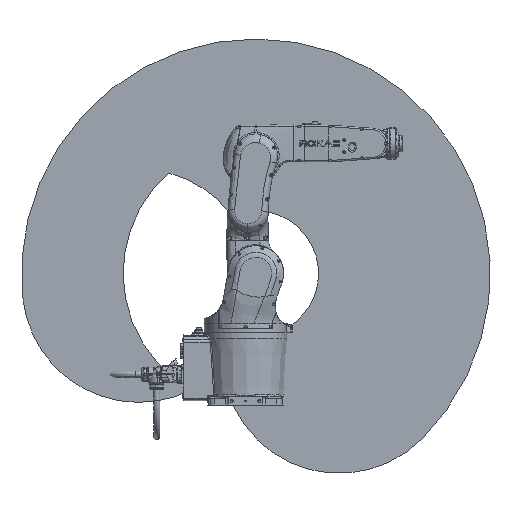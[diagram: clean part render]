
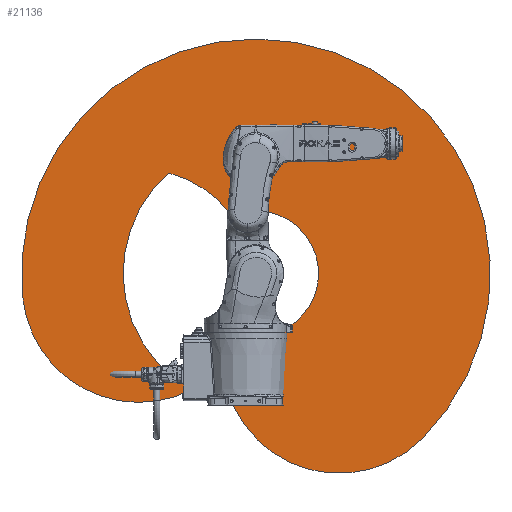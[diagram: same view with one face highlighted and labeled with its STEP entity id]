
A CAD part, front view. The second image highlights one B-rep face of the part: STEP entity #21136.
In plain terms, the highlighted planar face has unit normal (0, -1, 0).
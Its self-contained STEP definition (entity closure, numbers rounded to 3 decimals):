
#7696=CIRCLE('',#77491,180.697);
#7697=CIRCLE('',#77492,336.823);
#7698=CIRCLE('',#77493,676.823);
#7699=CIRCLE('',#77494,336.823);
#7700=CIRCLE('',#77495,383.538);
#7701=CIRCLE('',#77496,336.823);
#16781=PLANE('',#77497);
#21136=ADVANCED_FACE('',(#25448),#16781,.T.);
#25448=FACE_OUTER_BOUND('',#30328,.T.);
#30328=EDGE_LOOP('',(#50522,#50523,#50524,#50525,#50526,#50527));
#50522=ORIENTED_EDGE('',*,*,#67371,.T.);
#50523=ORIENTED_EDGE('',*,*,#67372,.T.);
#50524=ORIENTED_EDGE('',*,*,#67373,.T.);
#50525=ORIENTED_EDGE('',*,*,#67374,.T.);
#50526=ORIENTED_EDGE('',*,*,#67375,.T.);
#50527=ORIENTED_EDGE('',*,*,#67376,.T.);
#57192=VERTEX_POINT('',#195030);
#57193=VERTEX_POINT('',#195031);
#57194=VERTEX_POINT('',#195033);
#57195=VERTEX_POINT('',#195035);
#57196=VERTEX_POINT('',#195037);
#57197=VERTEX_POINT('',#195039);
#67371=EDGE_CURVE('',#57192,#57193,#7696,.T.);
#67372=EDGE_CURVE('',#57193,#57194,#7697,.T.);
#67373=EDGE_CURVE('',#57194,#57195,#7698,.T.);
#67374=EDGE_CURVE('',#57195,#57196,#7699,.T.);
#67375=EDGE_CURVE('',#57196,#57197,#7700,.T.);
#67376=EDGE_CURVE('',#57197,#57192,#7701,.T.);
#77491=AXIS2_PLACEMENT_3D('',#195029,#94520,#94521);
#77492=AXIS2_PLACEMENT_3D('',#195032,#94522,#94523);
#77493=AXIS2_PLACEMENT_3D('',#195034,#94524,#94525);
#77494=AXIS2_PLACEMENT_3D('',#195036,#94526,#94527);
#77495=AXIS2_PLACEMENT_3D('',#195038,#94528,#94529);
#77496=AXIS2_PLACEMENT_3D('',#195040,#94530,#94531);
#77497=AXIS2_PLACEMENT_3D('',#195041,#94532,#94533);
#94520=DIRECTION('',(0.,1.,0.));
#94521=DIRECTION('',(1.,0.,0.));
#94522=DIRECTION('',(0.,-1.,0.));
#94523=DIRECTION('',(1.,0.,0.));
#94524=DIRECTION('',(0.,-1.,0.));
#94525=DIRECTION('',(1.,0.,0.));
#94526=DIRECTION('',(0.,-1.,0.));
#94527=DIRECTION('',(1.,0.,0.));
#94528=DIRECTION('',(0.,1.,0.));
#94529=DIRECTION('',(1.,0.,0.));
#94530=DIRECTION('',(0.,1.,0.));
#94531=DIRECTION('',(1.,0.,0.));
#94532=DIRECTION('',(0.,-1.,0.));
#94533=DIRECTION('',(0.,0.,-1.));
#195029=CARTESIAN_POINT('',(6527.959,2056.777,0.));
#195030=CARTESIAN_POINT('',(6458.946,2056.777,166.999));
#195031=CARTESIAN_POINT('',(6441.608,2056.777,-158.729));
#195032=CARTESIAN_POINT('',(6768.375,2056.777,-240.416));
#195033=CARTESIAN_POINT('',(7006.545,2056.777,-478.586));
#195034=CARTESIAN_POINT('',(6527.959,2056.777,0.));
#195035=CARTESIAN_POINT('',(5854.844,2056.777,-70.747));
#195036=CARTESIAN_POINT('',(6189.822,2056.777,-35.54));
#195037=CARTESIAN_POINT('',(6342.55,2056.777,-335.746));
#195038=CARTESIAN_POINT('',(6527.959,2056.777,0.));
#195039=CARTESIAN_POINT('',(6276.796,2056.777,289.86));
#195040=CARTESIAN_POINT('',(6189.822,2056.777,-35.54));
#195041=CARTESIAN_POINT('',(6358.89,2056.777,-17.77));
